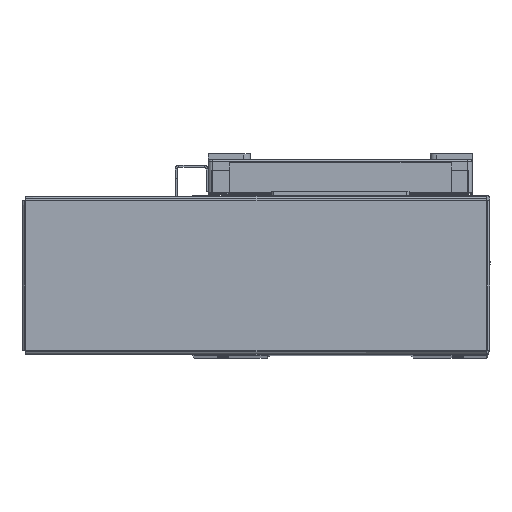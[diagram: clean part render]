
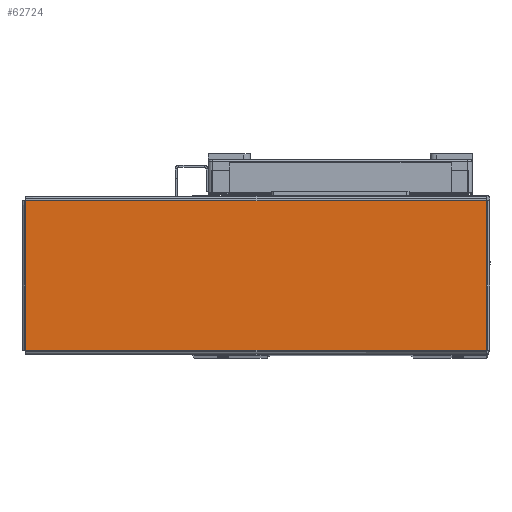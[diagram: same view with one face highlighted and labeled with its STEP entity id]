
A CAD part, top view. The second image highlights one B-rep face of the part: STEP entity #62724.
In plain terms, the highlighted planar face has unit normal (0, 0, 1) as drawn and (0, -1, 0) by its records, which use the part's own axes.
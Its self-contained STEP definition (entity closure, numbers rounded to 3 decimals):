
#3479 = AXIS2_PLACEMENT_3D ( 'NONE', #26652, #26673, #26633 ) ;
#5198 = VERTEX_POINT ( 'NONE', #28005 ) ;
#5204 = VERTEX_POINT ( 'NONE', #27958 ) ;
#5263 = VERTEX_POINT ( 'NONE', #22439 ) ;
#5296 = VERTEX_POINT ( 'NONE', #22428 ) ;
#10963 = EDGE_CURVE ( 'NONE', #5204, #5198, #53944, .T. ) ;
#10965 = EDGE_CURVE ( 'NONE', #5296, #5263, #53974, .T. ) ;
#10983 = EDGE_CURVE ( 'NONE', #5263, #5204, #54043, .T. ) ;
#12253 = EDGE_CURVE ( 'NONE', #5198, #5296, #28378, .T. ) ;
#13839 = ORIENTED_EDGE ( 'NONE', *, *, #12253, .T. ) ;
#13912 = ORIENTED_EDGE ( 'NONE', *, *, #10983, .T. ) ;
#13925 = ORIENTED_EDGE ( 'NONE', *, *, #10965, .T. ) ;
#13983 = ORIENTED_EDGE ( 'NONE', *, *, #10963, .T. ) ;
#22428 = CARTESIAN_POINT ( 'NONE',  ( 103.763, -1., -33.763 ) ) ;
#22439 = CARTESIAN_POINT ( 'NONE',  ( 103.763, -1., 33.763 ) ) ;
#25567 = FACE_OUTER_BOUND ( 'NONE', #39852, .T. ) ;
#26633 = DIRECTION ( 'NONE',  ( 0., 0., 1. ) ) ;
#26652 = CARTESIAN_POINT ( 'NONE',  ( 0., -1., 0. ) ) ;
#26673 = DIRECTION ( 'NONE',  ( 0., 1., 0. ) ) ;
#26680 = PLANE ( 'NONE',  #3479 ) ;
#27958 = CARTESIAN_POINT ( 'NONE',  ( -103.763, -1., 33.763 ) ) ;
#28005 = CARTESIAN_POINT ( 'NONE',  ( -103.763, -1., -33.763 ) ) ;
#28378 = LINE ( 'NONE', #30491, #28387 ) ;
#28387 = VECTOR ( 'NONE', #30515, 1000. ) ;
#30491 = CARTESIAN_POINT ( 'NONE',  ( -103.793, -1., -33.763 ) ) ;
#30515 = DIRECTION ( 'NONE',  ( 1., 0., 0. ) ) ;
#39852 = EDGE_LOOP ( 'NONE', ( #13912, #13983, #13839, #13925 ) ) ;
#53944 = LINE ( 'NONE', #60075, #53953 ) ;
#53953 = VECTOR ( 'NONE', #60137, 1000. ) ;
#53974 = LINE ( 'NONE', #60127, #53975 ) ;
#53975 = VECTOR ( 'NONE', #60078, 1000. ) ;
#54043 = LINE ( 'NONE', #60200, #54060 ) ;
#54060 = VECTOR ( 'NONE', #60221, 1000. ) ;
#60075 = CARTESIAN_POINT ( 'NONE',  ( -103.763, -1., 33.793 ) ) ;
#60078 = DIRECTION ( 'NONE',  ( 0., 0., 1. ) ) ;
#60127 = CARTESIAN_POINT ( 'NONE',  ( 103.763, -1., -33.793 ) ) ;
#60137 = DIRECTION ( 'NONE',  ( 0., 0., -1. ) ) ;
#60200 = CARTESIAN_POINT ( 'NONE',  ( 103.793, -1., 33.763 ) ) ;
#60221 = DIRECTION ( 'NONE',  ( -1., 0., 0. ) ) ;
#62724 = ADVANCED_FACE ( 'NONE', ( #25567 ), #26680, .F. ) ;
